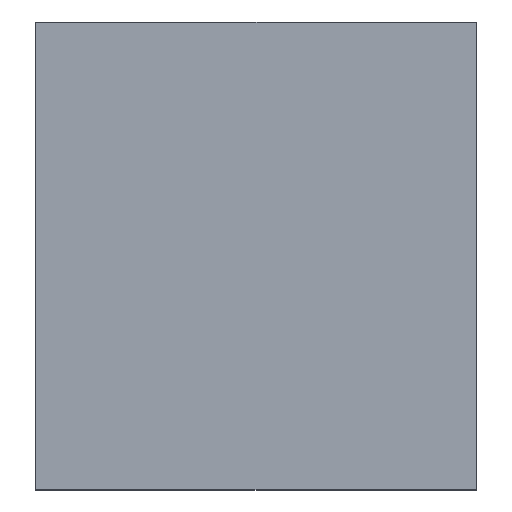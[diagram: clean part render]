
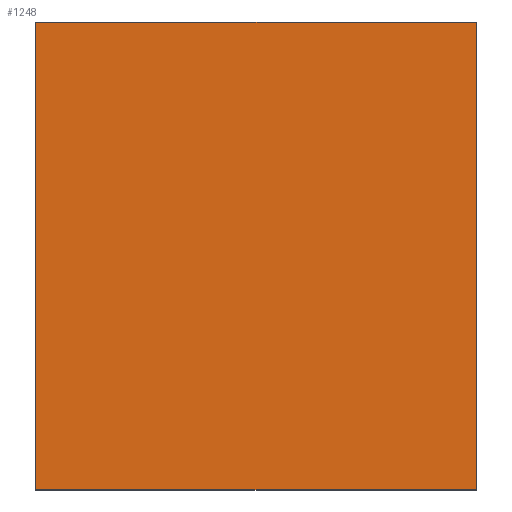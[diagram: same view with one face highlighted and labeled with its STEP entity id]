
A CAD part, top view. The second image highlights one B-rep face of the part: STEP entity #1248.
In plain terms, the highlighted planar face has unit normal (0, 0, 1).
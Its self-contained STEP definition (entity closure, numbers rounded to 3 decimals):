
#13 = DIRECTION ( 'NONE',  ( -1., 0., 0. ) ) ;
#25 = EDGE_CURVE ( 'NONE', #697, #31, #1427, .T. ) ;
#31 = VERTEX_POINT ( 'NONE', #1071 ) ;
#54 = LINE ( 'NONE', #415, #440 ) ;
#179 = VERTEX_POINT ( 'NONE', #1000 ) ;
#186 = EDGE_CURVE ( 'NONE', #179, #697, #1347, .T. ) ;
#195 = FACE_OUTER_BOUND ( 'NONE', #918, .T. ) ;
#197 = CARTESIAN_POINT ( 'NONE',  ( 0., 0., 19. ) ) ;
#212 = DIRECTION ( 'NONE',  ( -1., 0., 0. ) ) ;
#355 = VECTOR ( 'NONE', #1321, 1000. ) ;
#369 = ORIENTED_EDGE ( 'NONE', *, *, #25, .T. ) ;
#399 = VECTOR ( 'NONE', #654, 1000. ) ;
#405 = VERTEX_POINT ( 'NONE', #432 ) ;
#415 = CARTESIAN_POINT ( 'NONE',  ( 0., 70., 19. ) ) ;
#432 = CARTESIAN_POINT ( 'NONE',  ( 66., 70., 19. ) ) ;
#440 = VECTOR ( 'NONE', #13, 1000. ) ;
#454 = CARTESIAN_POINT ( 'NONE',  ( 0., 0., 19. ) ) ;
#496 = AXIS2_PLACEMENT_3D ( 'NONE', #869, #784, #212 ) ;
#528 = EDGE_CURVE ( 'NONE', #405, #179, #54, .T. ) ;
#604 = ORIENTED_EDGE ( 'NONE', *, *, #626, .T. ) ;
#626 = EDGE_CURVE ( 'NONE', #31, #405, #955, .T. ) ;
#651 = PLANE ( 'NONE',  #496 ) ;
#654 = DIRECTION ( 'NONE',  ( 1., 0., 0. ) ) ;
#697 = VERTEX_POINT ( 'NONE', #454 ) ;
#784 = DIRECTION ( 'NONE',  ( 0., 0., -1. ) ) ;
#869 = CARTESIAN_POINT ( 'NONE',  ( 0., 0., 19. ) ) ;
#883 = ORIENTED_EDGE ( 'NONE', *, *, #186, .T. ) ;
#918 = EDGE_LOOP ( 'NONE', ( #883, #369, #604, #1043 ) ) ;
#925 = CARTESIAN_POINT ( 'NONE',  ( 66., 0., 19. ) ) ;
#955 = LINE ( 'NONE', #925, #355 ) ;
#1000 = CARTESIAN_POINT ( 'NONE',  ( 0., 70., 19. ) ) ;
#1022 = DIRECTION ( 'NONE',  ( 0., -1., 0. ) ) ;
#1043 = ORIENTED_EDGE ( 'NONE', *, *, #528, .T. ) ;
#1071 = CARTESIAN_POINT ( 'NONE',  ( 66., 0., 19. ) ) ;
#1203 = VECTOR ( 'NONE', #1022, 1000. ) ;
#1232 = CARTESIAN_POINT ( 'NONE',  ( 0., 0., 19. ) ) ;
#1248 = ADVANCED_FACE ( 'NONE', ( #195 ), #651, .F. ) ;
#1321 = DIRECTION ( 'NONE',  ( 0., 1., 0. ) ) ;
#1347 = LINE ( 'NONE', #1232, #1203 ) ;
#1427 = LINE ( 'NONE', #197, #399 ) ;
